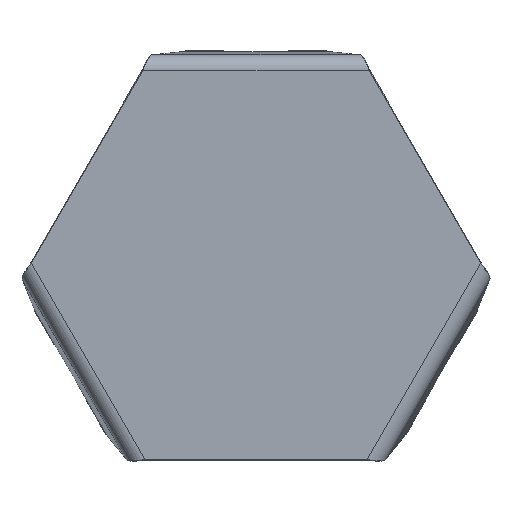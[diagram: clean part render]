
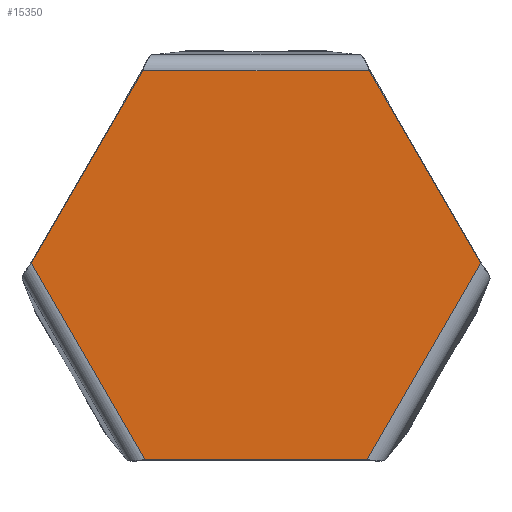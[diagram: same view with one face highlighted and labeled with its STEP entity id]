
A CAD part, top view. The second image highlights one B-rep face of the part: STEP entity #15350.
In plain terms, the highlighted planar face has unit normal (0, 0, 1).
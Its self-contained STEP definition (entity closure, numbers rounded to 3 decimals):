
#10645=CARTESIAN_POINT('',(175.9,299.55,0.0));
#10646=VERTEX_POINT('',#10645);
#10647=CARTESIAN_POINT('',(347.368,2.559,0.0));
#10648=VERTEX_POINT('',#10647);
#10649=CARTESIAN_POINT('',(175.9,299.55,0.0));
#10650=DIRECTION('',(0.5,-0.866,0.0));
#10651=VECTOR('',#10650,342.937);
#10652=LINE('',#10649,#10651);
#10653=EDGE_CURVE('',#10646,#10648,#10652,.T.);
#11145=CARTESIAN_POINT('',(-347.661,2.166,0.));
#11146=VERTEX_POINT('',#11145);
#11577=CARTESIAN_POINT('',(171.468,-302.109,0.0));
#11578=VERTEX_POINT('',#11577);
#11579=CARTESIAN_POINT('',(-171.468,-302.109,0.0));
#11580=VERTEX_POINT('',#11579);
#11581=CARTESIAN_POINT('',(171.468,-302.109,0.0));
#11582=DIRECTION('',(-1.0,0.0,0.0));
#11583=VECTOR('',#11582,342.937);
#11584=LINE('',#11581,#11583);
#11585=EDGE_CURVE('',#11578,#11580,#11584,.T.);
#12159=CARTESIAN_POINT('',(-171.955,-302.166,0.));
#12160=VERTEX_POINT('',#12159);
#12226=CARTESIAN_POINT('',(-171.468,-302.109,0.0));
#12227=CARTESIAN_POINT('',(-171.487,-302.111,0.0));
#12228=CARTESIAN_POINT('',(-171.507,-302.113,0.0));
#12229=CARTESIAN_POINT('',(-171.669,-302.132,0.0));
#12230=CARTESIAN_POINT('',(-171.812,-302.149,0.0));
#12231=CARTESIAN_POINT('',(-171.955,-302.166,0.0));
#12232=B_SPLINE_CURVE_WITH_KNOTS('',3,(#12226,#12227,#12228,#12229,#12230,#12231),.UNSPECIFIED.,.F.,.U.,(4,2,4),(-1.481,-1.476,-1.432),.UNSPECIFIED.);
#12233=EDGE_CURVE('',#11580,#12160,#12232,.T.);
#12371=CARTESIAN_POINT('',(171.955,-302.166,0.));
#12372=VERTEX_POINT('',#12371);
#12479=CARTESIAN_POINT('',(171.955,-302.166,0.0));
#12480=CARTESIAN_POINT('',(171.812,-302.149,0.0));
#12481=CARTESIAN_POINT('',(171.669,-302.132,0.0));
#12482=CARTESIAN_POINT('',(171.507,-302.113,0.0));
#12483=CARTESIAN_POINT('',(171.488,-302.111,0.0));
#12484=CARTESIAN_POINT('',(171.468,-302.109,0.0));
#12485=B_SPLINE_CURVE_WITH_KNOTS('',3,(#12479,#12480,#12481,#12482,#12483,#12484),.UNSPECIFIED.,.F.,.U.,(4,2,4),(-0.043,0.0,0.006),.UNSPECIFIED.);
#12486=EDGE_CURVE('',#12372,#11578,#12485,.T.);
#13529=CARTESIAN_POINT('',(347.661,2.166,0.));
#13530=VERTEX_POINT('',#13529);
#13600=CARTESIAN_POINT('',(-347.368,2.559,0.0));
#13601=VERTEX_POINT('',#13600);
#13602=CARTESIAN_POINT('',(-347.661,2.166,0.0));
#13603=CARTESIAN_POINT('',(-347.575,2.281,0.0));
#13604=CARTESIAN_POINT('',(-347.489,2.397,0.0));
#13605=CARTESIAN_POINT('',(-347.391,2.528,0.0));
#13606=CARTESIAN_POINT('',(-347.38,2.543,0.0));
#13607=CARTESIAN_POINT('',(-347.368,2.559,0.0));
#13608=B_SPLINE_CURVE_WITH_KNOTS('',3,(#13602,#13603,#13604,#13605,#13606,#13607),.UNSPECIFIED.,.F.,.U.,(4,2,4),(-0.043,0.0,0.006),.UNSPECIFIED.);
#13609=EDGE_CURVE('',#11146,#13601,#13608,.T.);
#13631=CARTESIAN_POINT('',(-175.9,299.55,0.0));
#13632=VERTEX_POINT('',#13631);
#13633=CARTESIAN_POINT('',(-347.368,2.559,0.0));
#13634=DIRECTION('',(0.5,0.866,0.0));
#13635=VECTOR('',#13634,342.937);
#13636=LINE('',#13633,#13635);
#13637=EDGE_CURVE('',#13601,#13632,#13636,.T.);
#13677=CARTESIAN_POINT('',(347.368,2.559,0.0));
#13678=CARTESIAN_POINT('',(347.38,2.543,0.0));
#13679=CARTESIAN_POINT('',(347.391,2.527,0.0));
#13680=CARTESIAN_POINT('',(347.489,2.396,0.0));
#13681=CARTESIAN_POINT('',(347.575,2.281,0.0));
#13682=CARTESIAN_POINT('',(347.661,2.166,0.0));
#13683=B_SPLINE_CURVE_WITH_KNOTS('',3,(#13677,#13678,#13679,#13680,#13681,#13682),.UNSPECIFIED.,.F.,.U.,(4,2,4),(-1.485,-1.479,-1.436),.UNSPECIFIED.);
#13684=EDGE_CURVE('',#10648,#13530,#13683,.T.);
#14143=CARTESIAN_POINT('',(-175.706,300.,0.));
#14144=VERTEX_POINT('',#14143);
#14210=CARTESIAN_POINT('',(-175.9,299.55,0.0));
#14211=CARTESIAN_POINT('',(-175.892,299.568,0.0));
#14212=CARTESIAN_POINT('',(-175.885,299.586,0.0));
#14213=CARTESIAN_POINT('',(-175.82,299.736,0.0));
#14214=CARTESIAN_POINT('',(-175.763,299.868,0.0));
#14215=CARTESIAN_POINT('',(-175.706,300.,0.0));
#14216=B_SPLINE_CURVE_WITH_KNOTS('',3,(#14210,#14211,#14212,#14213,#14214,#14215),.UNSPECIFIED.,.F.,.U.,(4,2,4),(-1.464,-1.459,-1.415),.UNSPECIFIED.);
#14217=EDGE_CURVE('',#13632,#14144,#14216,.T.);
#14355=CARTESIAN_POINT('',(175.706,300.,0.));
#14356=VERTEX_POINT('',#14355);
#14427=CARTESIAN_POINT('',(175.706,300.,0.0));
#14428=CARTESIAN_POINT('',(175.763,299.868,0.0));
#14429=CARTESIAN_POINT('',(175.82,299.736,0.0));
#14430=CARTESIAN_POINT('',(175.884,299.586,0.0));
#14431=CARTESIAN_POINT('',(175.892,299.568,0.0));
#14432=CARTESIAN_POINT('',(175.9,299.55,0.0));
#14433=B_SPLINE_CURVE_WITH_KNOTS('',3,(#14427,#14428,#14429,#14430,#14431,#14432),.UNSPECIFIED.,.F.,.U.,(4,2,4),(-0.043,0.0,0.006),.UNSPECIFIED.);
#14434=EDGE_CURVE('',#14356,#10646,#14433,.T.);
#15312=CARTESIAN_POINT('',(171.955,-302.166,0.0));
#15313=DIRECTION('',(0.5,0.866,0.0));
#15314=VECTOR('',#15313,351.411);
#15315=LINE('',#15312,#15314);
#15316=EDGE_CURVE('',#12372,#13530,#15315,.T.);
#15321=CARTESIAN_POINT('',(712.343,-411.266,0.0));
#15322=DIRECTION('',(0.0,0.0,1.0));
#15323=DIRECTION('',(1.0,0.0,0.0));
#15324=AXIS2_PLACEMENT_3D('',#15321,#15322,#15323);
#15325=PLANE('',#15324);
#15326=ORIENTED_EDGE('',*,*,#12233,.F.);
#15327=ORIENTED_EDGE('',*,*,#11585,.F.);
#15328=ORIENTED_EDGE('',*,*,#12486,.F.);
#15329=ORIENTED_EDGE('',*,*,#15316,.T.);
#15330=ORIENTED_EDGE('',*,*,#13684,.F.);
#15331=ORIENTED_EDGE('',*,*,#10653,.F.);
#15332=ORIENTED_EDGE('',*,*,#14434,.F.);
#15333=CARTESIAN_POINT('',(175.706,300.,0.0));
#15334=DIRECTION('',(-1.0,0.0,0.0));
#15335=VECTOR('',#15334,351.411);
#15336=LINE('',#15333,#15335);
#15337=EDGE_CURVE('',#14356,#14144,#15336,.T.);
#15338=ORIENTED_EDGE('',*,*,#15337,.T.);
#15339=ORIENTED_EDGE('',*,*,#14217,.F.);
#15340=ORIENTED_EDGE('',*,*,#13637,.F.);
#15341=ORIENTED_EDGE('',*,*,#13609,.F.);
#15342=CARTESIAN_POINT('',(-347.661,2.166,0.0));
#15343=DIRECTION('',(0.5,-0.866,0.0));
#15344=VECTOR('',#15343,351.412);
#15345=LINE('',#15342,#15344);
#15346=EDGE_CURVE('',#11146,#12160,#15345,.T.);
#15347=ORIENTED_EDGE('',*,*,#15346,.T.);
#15348=EDGE_LOOP('',(#15326,#15327,#15328,#15329,#15330,#15331,#15332,#15338,#15339,#15340,#15341,#15347));
#15349=FACE_OUTER_BOUND('',#15348,.T.);
#15350=ADVANCED_FACE('',(#15349),#15325,.T.);
